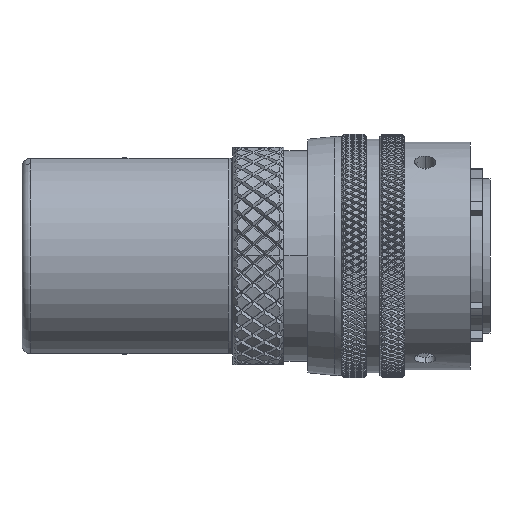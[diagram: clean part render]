
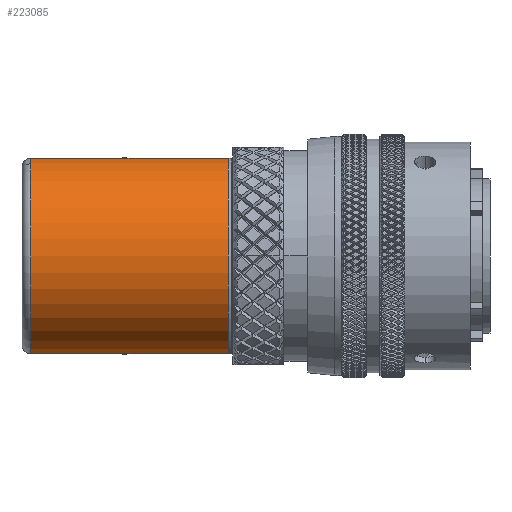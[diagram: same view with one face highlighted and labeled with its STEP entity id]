
A CAD part, left-side view. The second image highlights one B-rep face of the part: STEP entity #223085.
In plain terms, the highlighted cylindrical face has radius 11.75 mm (diameter 23.5 mm), a partial arc.
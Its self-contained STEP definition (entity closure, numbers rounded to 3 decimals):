
#12098 = VERTEX_POINT ( 'NONE', #53715 ) ;
#18836 = DIRECTION ( 'NONE',  ( 0., 1., 0. ) ) ;
#23977 = AXIS2_PLACEMENT_3D ( 'NONE', #83937, #181907, #51877 ) ;
#32997 = EDGE_CURVE ( 'NONE', #241505, #12098, #46464, .T. ) ;
#46464 = LINE ( 'NONE', #123539, #234368 ) ;
#51877 = DIRECTION ( 'NONE',  ( -0.225, 0., 0.974 ) ) ;
#53715 = CARTESIAN_POINT ( 'NONE',  ( -2.638, 19.958, 11.45 ) ) ;
#54923 = ORIENTED_EDGE ( 'NONE', *, *, #61790, .F. ) ;
#61622 = VECTOR ( 'NONE', #18836, 1000. ) ;
#61790 = EDGE_CURVE ( 'NONE', #76769, #101840, #220737, .T. ) ;
#71655 = DIRECTION ( 'NONE',  ( 1., 0., 0. ) ) ;
#76769 = VERTEX_POINT ( 'NONE', #296819 ) ;
#79401 = EDGE_CURVE ( 'NONE', #76769, #12098, #158025, .T. ) ;
#80901 = EDGE_LOOP ( 'NONE', ( #103779, #105293, #200221, #54923 ) ) ;
#83937 = CARTESIAN_POINT ( 'NONE',  ( 0., 43.158, 0. ) ) ;
#101840 = VERTEX_POINT ( 'NONE', #124604 ) ;
#103779 = ORIENTED_EDGE ( 'NONE', *, *, #79401, .T. ) ;
#105293 = ORIENTED_EDGE ( 'NONE', *, *, #32997, .F. ) ;
#110612 = DIRECTION ( 'NONE',  ( -0.225, 0., -0.974 ) ) ;
#116839 = CARTESIAN_POINT ( 'NONE',  ( -2.638, 19.958, -11.45 ) ) ;
#121461 = FACE_OUTER_BOUND ( 'NONE', #80901, .T. ) ;
#123539 = CARTESIAN_POINT ( 'NONE',  ( -2.638, 43.158, 11.45 ) ) ;
#124604 = CARTESIAN_POINT ( 'NONE',  ( -2.638, 43.158, -11.45 ) ) ;
#158025 = CIRCLE ( 'NONE', #291402, 11.75 ) ;
#175987 = DIRECTION ( 'NONE',  ( 0., 1., 0. ) ) ;
#181907 = DIRECTION ( 'NONE',  ( 0., -1., 0. ) ) ;
#195320 = CARTESIAN_POINT ( 'NONE',  ( 0., 10.958, 0. ) ) ;
#200221 = ORIENTED_EDGE ( 'NONE', *, *, #263209, .T. ) ;
#200376 = CARTESIAN_POINT ( 'NONE',  ( -2.638, 43.158, 11.45 ) ) ;
#220737 = LINE ( 'NONE', #116839, #61622 ) ;
#221023 = CYLINDRICAL_SURFACE ( 'NONE', #277297, 11.75 ) ;
#221530 = DIRECTION ( 'NONE',  ( 0., -1., 0. ) ) ;
#223085 = ADVANCED_FACE ( 'NONE', ( #121461 ), #221023, .T. ) ;
#234269 = CARTESIAN_POINT ( 'NONE',  ( 0., 19.958, 0. ) ) ;
#234368 = VECTOR ( 'NONE', #221530, 1000. ) ;
#241505 = VERTEX_POINT ( 'NONE', #200376 ) ;
#263209 = EDGE_CURVE ( 'NONE', #241505, #101840, #265146, .T. ) ;
#265146 = CIRCLE ( 'NONE', #23977, 11.75 ) ;
#277297 = AXIS2_PLACEMENT_3D ( 'NONE', #195320, #175987, #71655 ) ;
#291402 = AXIS2_PLACEMENT_3D ( 'NONE', #234269, #308069, #110612 ) ;
#296819 = CARTESIAN_POINT ( 'NONE',  ( -2.638, 19.958, -11.45 ) ) ;
#308069 = DIRECTION ( 'NONE',  ( 0., 1., 0. ) ) ;
